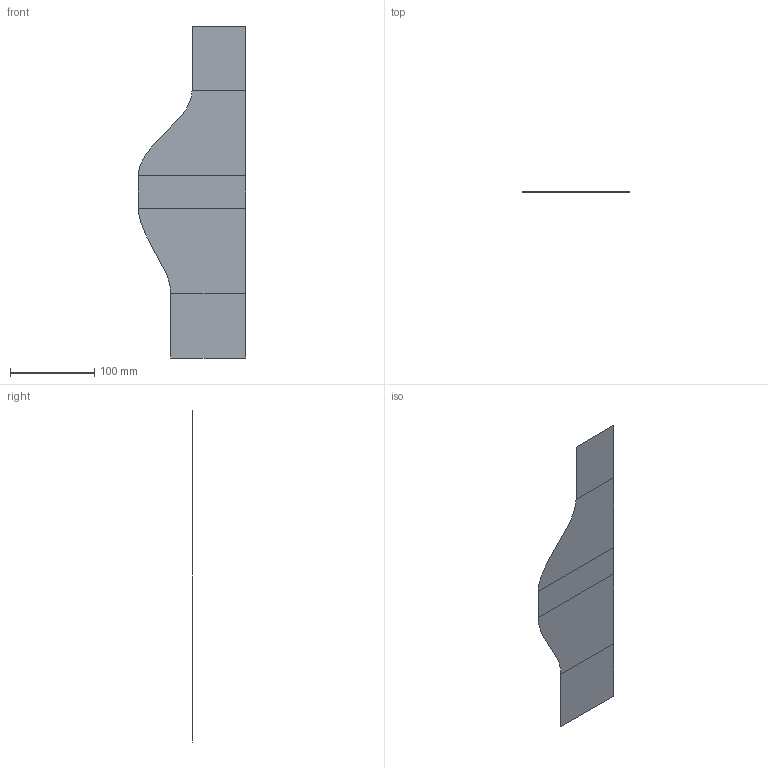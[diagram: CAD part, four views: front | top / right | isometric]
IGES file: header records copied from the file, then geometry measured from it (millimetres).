
Start section: the CFD analysis of mixing rod /COM,ANSYS RELEASE  9.0    UP20041104       12:20:50    03/14/2007 /NOPR /PREP7 /TITLE,the CFD analysis of mixing rod BFUNIF,TEMP,_TINY KUSE,0 TIME,0.00000000 TREF,0.00000000 ALPHAD,0.00000000 BETAD,0.00000000 DMPRAT,0.00000000 CRPLIM,0.100000000,0 CRPLIM,0.00000000,1 NCNV,1,0.00000000,0,0.00000000,0.00000000 NEQIT,0 ERESX,DEFA ACEL,0.00000000,0.00000000,0.00000000 O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
Global section: file name: EX7-2.iges; native system: ANSYS; preprocessor:   9.0      UP20041104; date: 000314.122048
Bounding box: 127 x 0 x 393.7 mm (x, y, z)
Surface area: 37096.7 mm2 (no closed solid volume)
Topology: 0 solids, 0 shells, 5 faces, 20 edges, 20 vertices
Faces by surface type: bspline 5
